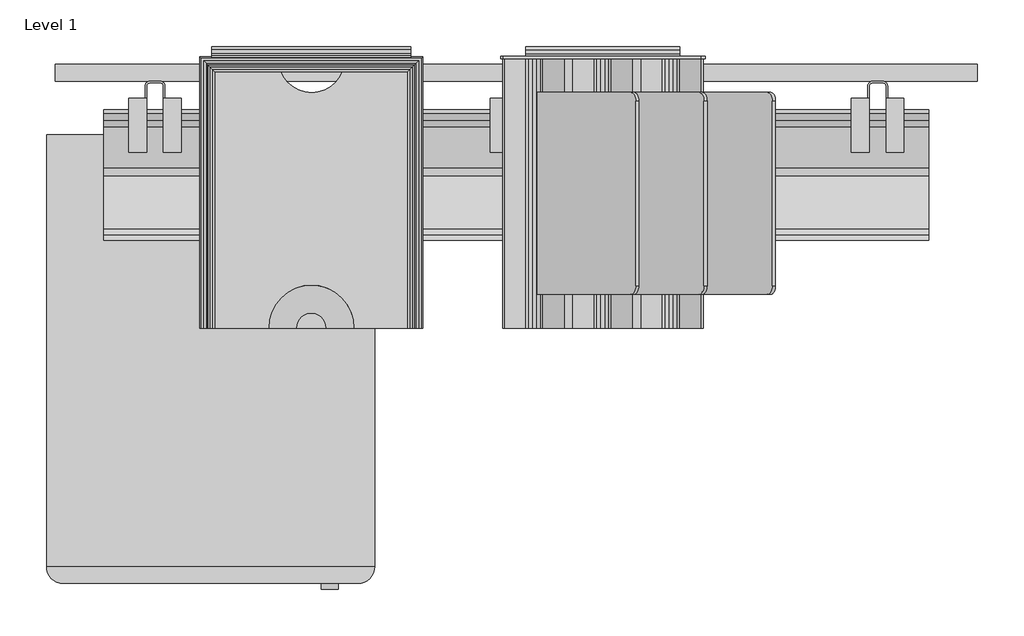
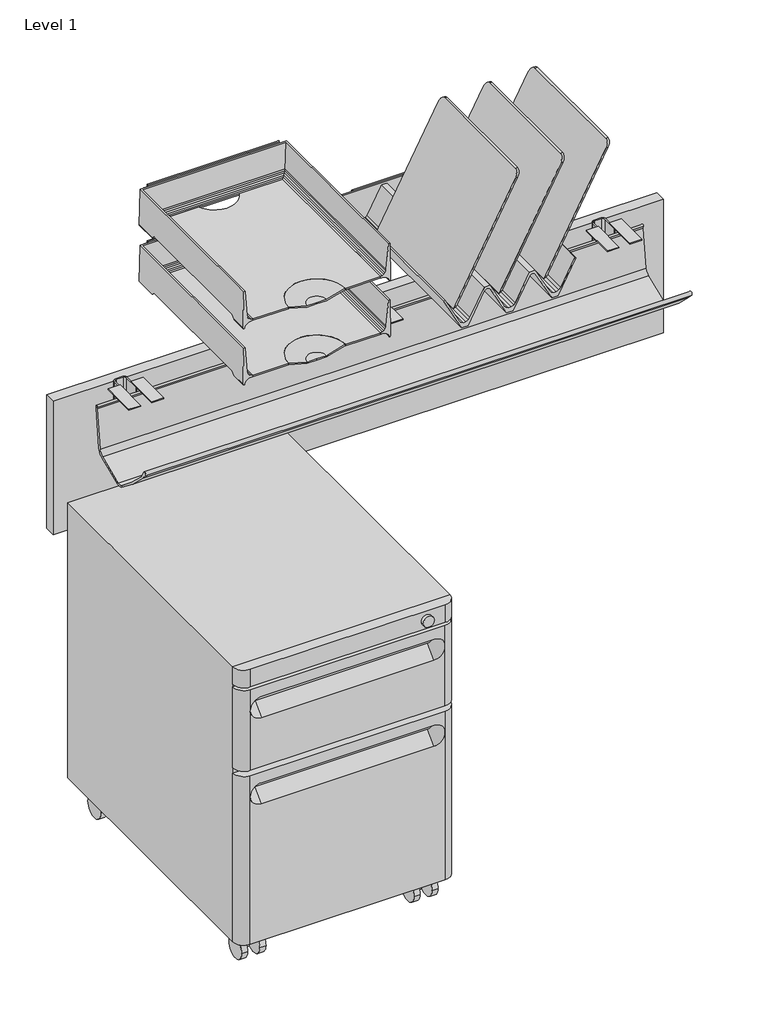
# One storey, incomplete: 5 furniture elements.
"""IFC4 building model written with IfcOpenShell, lengths in millimetres."""

from ifc_helpers import new_model, si_unit, origin, place, context, project, spatial, transform, mapped, element, save
from components import furniture_84c54a78, furniture_32d38c57, furniture_af3f0797, furniture_3d3026bf, lam_42w_cable_trough_20baa9bf

model = new_model("IFC4")

# Units and contexts
model_context = context("Model", 3, world=origin())
ifc_project = project(units=[si_unit("LENGTHUNIT", "METRE", prefix="MILLI")], contexts=[model_context])

# Site, building, storey
site = spatial("IfcSite", under=ifc_project)
building = spatial("IfcBuilding", under=site)
storey = spatial("IfcBuildingStorey", under=building, Name="Level 1", Elevation=0.0)

# Furniture
placement = place(None, origin())
furniture_shape = furniture_84c54a78(model_context)
element("IfcFurniture", 1, ObjectType="HermanMiller_QuadrantFiling_G5111_MobilePedestal : 21-1/2\"H x 20\"D x 15\"W BF", at=placement, inside=storey, context=model_context, shape_type="MappedRepresentation", body=[
    mapped(furniture_shape, transform((269.7128068, -336.6769968, 0.0), x_axis=(1.0, 0.0, 0.0), y_axis=(0.0, 1.0, 0.0), z_axis=(0.0, 0.0, 1.0))),
])
furniture_2_shape = furniture_32d38c57(model_context)
element("IfcFurniture", 2, ObjectType="HermanMiller_ThrivePortfolio_Y7216_PaperTray : 3\"H x 12\"D x 10\"W", at=placement, inside=storey, context=model_context, shape_type="MappedRepresentation", body=[
    mapped(furniture_2_shape, transform((383.6401185, -157.1624878, 0.0), x_axis=(1.0, 0.0, 0.0), y_axis=(0.0, 1.0, 0.0), z_axis=(0.0, 0.0, 1.0))),
])
furniture_3_shape = furniture_af3f0797(model_context)
element("IfcFurniture", 3, ObjectType="HermanMiller_ThrivePortfolio_Y7216_PaperTray : 3\"H x 12\"D x 10\"W", at=placement, inside=storey, context=model_context, shape_type="MappedRepresentation", body=[
    mapped(furniture_3_shape, transform((383.6401185, -157.1624878, 0.0), x_axis=(1.0, 0.0, 0.0), y_axis=(0.0, 1.0, 0.0), z_axis=(0.0, 0.0, 1.0))),
])
furniture_4_shape = furniture_3d3026bf(model_context)
element("IfcFurniture", 4, ObjectType="HermanMiller_ThrivePortfolio_Y7218_DiagonalTray : 8 1/2\"H x 12\"D x 13\"W", at=placement, inside=storey, context=model_context, shape_type="MappedRepresentation", body=[
    mapped(furniture_4_shape, transform((713.7568655, -157.1624878, 0.0), x_axis=(1.0, 0.0, 0.0), y_axis=(0.0, 1.0, 0.0), z_axis=(0.0, 0.0, 1.0))),
])
lam_42w_cable_trough_shape = lam_42w_cable_trough_20baa9bf(model_context)
element("IfcFurniture", 5, ObjectType="HermanMiller_ThrivePortfolio_Y1113_FabricModestyPanel : Lam 42W Cable Trough", at=placement, inside=storey, context=model_context, shape_type="MappedRepresentation", body=[
    mapped(lam_42w_cable_trough_shape, transform((83.9753068, 0.0, 0.0), x_axis=(1.0, 0.0, 0.0), y_axis=(0.0, 1.0, 0.0), z_axis=(0.0, 0.0, 1.0))),
])

save(model, "model.ifc")
